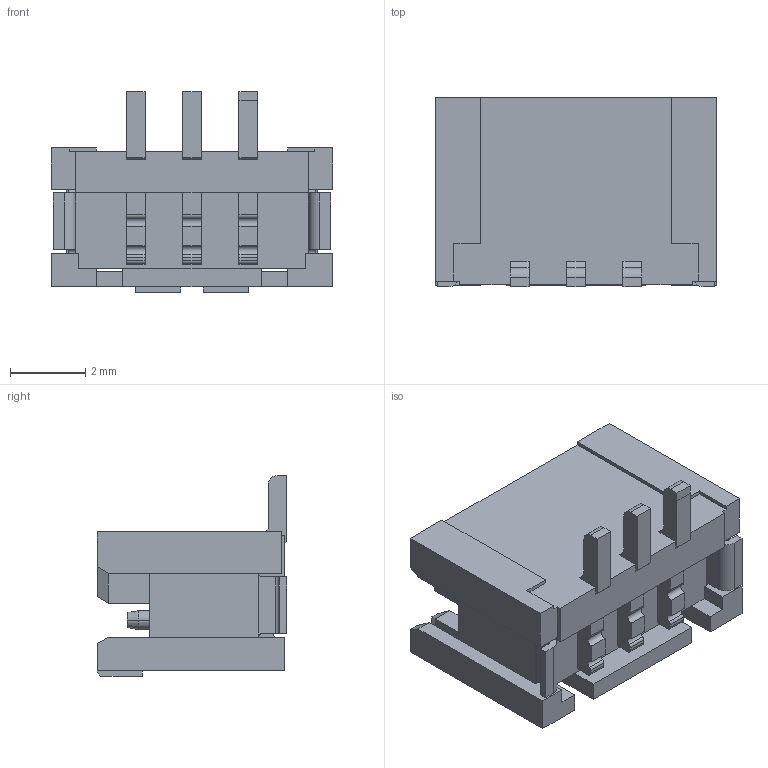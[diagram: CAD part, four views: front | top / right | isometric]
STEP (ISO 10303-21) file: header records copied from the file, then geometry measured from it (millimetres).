
FILE_DESCRIPTION((''),'2;1');
FILE_NAME('00124','2017-04-20T',('d25011'),(''),'CREO PARAMETRIC BY PTC INC, 2014500','CREO PARAMETRIC BY PTC INC, 2014500','');
FILE_SCHEMA(('CONFIG_CONTROL_DESIGN'));
Length unit declared in the file: millimetre
Products named in the file (1): 00124
Bounding box: 7.5 x 5.05 x 5.35 mm (x, y, z)
Volume: 71.6 mm3; surface area: 270.1 mm2
Topology: 1 solids, 1 shells, 210 faces, 587 edges, 378 vertices
Faces by surface type: plane 165, cylinder 39, cone 6
Entity records: 6685 total; most frequent: CARTESIAN_POINT 1175, ORIENTED_EDGE 1174, DIRECTION 1095, EDGE_CURVE 587, VECTOR 499, LINE 499, VERTEX_POINT 378, AXIS2_PLACEMENT_3D 298
